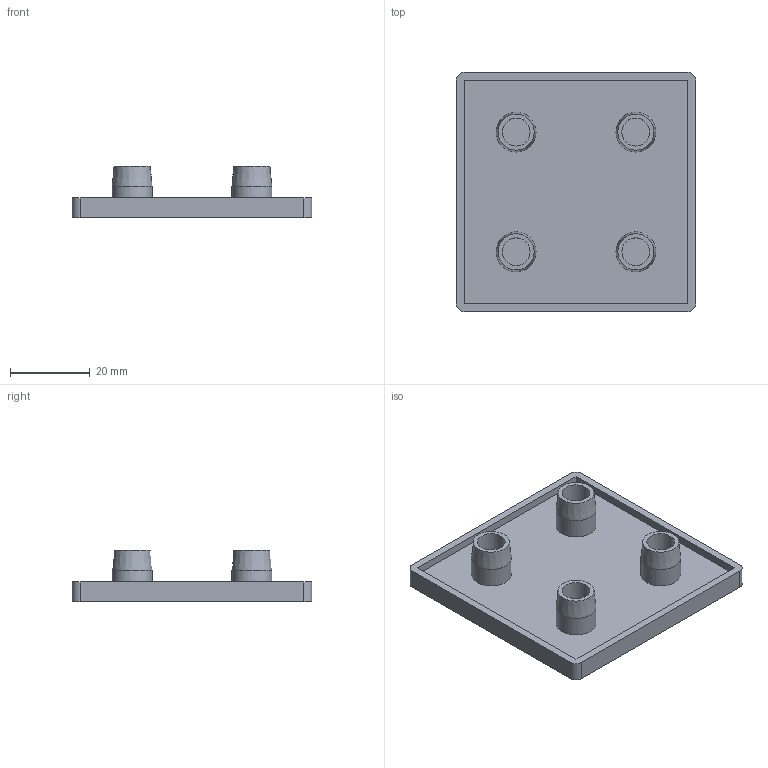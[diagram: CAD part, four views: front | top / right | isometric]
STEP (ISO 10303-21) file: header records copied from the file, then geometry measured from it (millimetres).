
FILE_DESCRIPTION(/* description */ ('Tappo 60x60 serie 30'),/* implementation_level */ '2;1');
FILE_NAME(/* name */ 'C:\Users\Stefan.Nesic\Desktop\01010STEP\CC60-60X.stp',/* time_stamp */ '2022-06-17T14:05:31+02:00',/* author */ ('USER'),/* organization */ ('Microsoft'),/* preprocessor_version */ 'ST-DEVELOPER v18.1',/* originating_system */ 'Autodesk Inventor 2021',/* authorisation */ '');
FILE_SCHEMA (('AUTOMOTIVE_DESIGN { 1 0 10303 214 3 1 1 }'));
Length unit declared in the file: millimetre
Products named in the file (1): CC60-60X
Bounding box: 60 x 60 x 13 mm (x, y, z)
Volume: 13166.6 mm3; surface area: 10875.2 mm2
Topology: 1 solids, 1 shells, 35 faces, 68 edges, 44 vertices
Faces by surface type: plane 19, cylinder 12, cone 4
Full cylindrical faces by diameter (mm): 7 x4, 10 x4
Entity records: 939 total; most frequent: DIRECTION 168, CARTESIAN_POINT 148, ORIENTED_EDGE 136, EDGE_CURVE 68, AXIS2_PLACEMENT_3D 64, EDGE_LOOP 44, VERTEX_POINT 44, LINE 40
